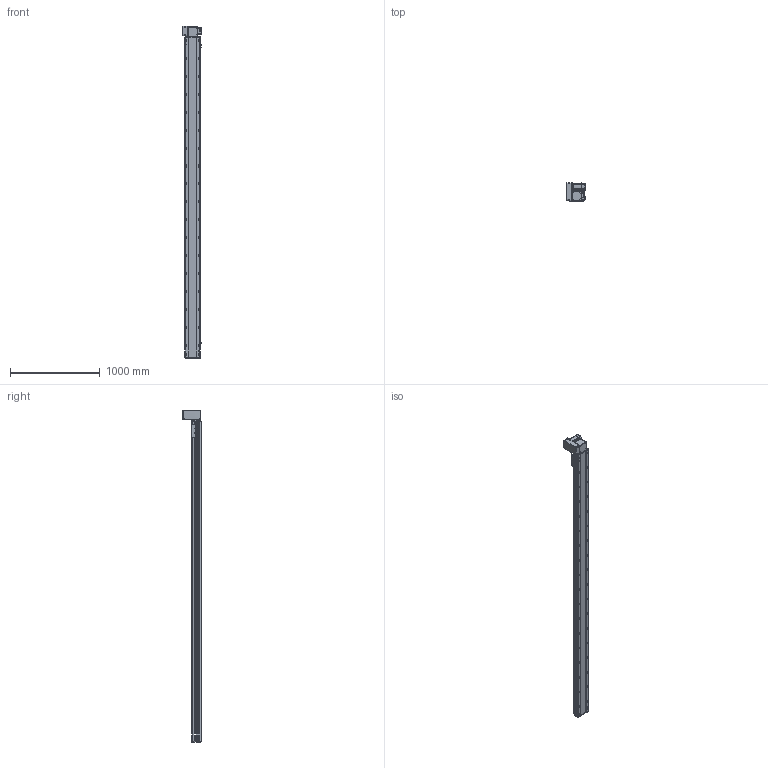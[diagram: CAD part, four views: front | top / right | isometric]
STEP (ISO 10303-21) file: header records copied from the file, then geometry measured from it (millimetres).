
FILE_DESCRIPTION (( 'STEP AP214' ), '1' );
FILE_NAME ('RTB17S-XX-3300-LW-M75-C4.STEP', '2025-12-12T01:21:51', ( '' ), ( '' ), 'SwSTEP 2.0', 'SolidWorks 2018', '' );
FILE_SCHEMA (( 'AUTOMOTIVE_DESIGN' ));
Length unit declared in the file: millimetre
Products named in the file (15): RTB17S-XX-3300-LW-M75-C4; RTB17-R-011菁釱^RTB17S-XX-XX-LW-M75-C4; EE672^RTB17S-XX-XX-LW-M75-C4; RTB22S-GY-005P^RTB17S-LW-々湍釱蚾饜-750W_RTB17S-XX-XX-LW-M75-C4; RTB22S-GY-008-M75--萇儂啣^RTB17S-LW-々湍釱蚾饜-750W_RTB17S-XX-XX-LW-M75-C4; RTB22S-GY-018P^RTB17S-LW-々湍釱蚾饜-750W_RTB17S-XX-XX-LW-M75-C4; RTB17S-賑釱^RTB17S-XX-XX-LW-M75-C4; 750W萇儂^RTB17S-XX-XX-LW-M75-C4; RTB17S-LW-々湍釱蚾饜-750W^RTB17S-XX-XX-LW-M75-C4; RTB17S-L-004-賑釱^RTB17S-賑釱_RTB17S-XX-XX-LW-M75-C4; RTB17S-L-007奻裔^RTB17S-XX-XX-LW-M75-C4; RTB22S-GY-017P^RTB17S-LW-々湍釱蚾饜-750W_RTB17S-XX-XX-LW-M75-C4; RTB17S-L-001-耜醱啣^RTB17S-XX-XX-LW-M75-C4; RTH13-BL-012覜茼え俋离^RTB17S-賑釱_RTB17S-XX-XX-LW-M75-C4; RTB17S-L-014-T20-P75--々湍釱^RTB17S-LW-々湍釱蚾饜-750W_RTB17S-XX-XX-LW-M75-C4
Assembly tree (17 placements, depth 3):
  RTB17S-XX-3300-LW-M75-C4
    RTB17-R-011菁釱^RTB17S-XX-XX-LW-M75-C4
    EE672^RTB17S-XX-XX-LW-M75-C4  x3
    RTB17S-L-001-耜醱啣^RTB17S-XX-XX-LW-M75-C4
    RTB17S-賑釱^RTB17S-XX-XX-LW-M75-C4
      RTB17S-L-004-賑釱^RTB17S-賑釱_RTB17S-XX-XX-LW-M75-C4
      RTH13-BL-012覜茼え俋离^RTB17S-賑釱_RTB17S-XX-XX-LW-M75-C4
    RTB17S-L-007奻裔^RTB17S-XX-XX-LW-M75-C4
    750W萇儂^RTB17S-XX-XX-LW-M75-C4
    RTB17S-LW-々湍釱蚾饜-750W^RTB17S-XX-XX-LW-M75-C4
      RTB17S-L-014-T20-P75--々湍釱^RTB17S-LW-々湍釱蚾饜-750W_RTB17S-XX-XX-LW-M75-C4
      RTB22S-GY-005P^RTB17S-LW-々湍釱蚾饜-750W_RTB17S-XX-XX-LW-M75-C4
      RTB22S-GY-017P^RTB17S-LW-々湍釱蚾饜-750W_RTB17S-XX-XX-LW-M75-C4  x2
      RTB22S-GY-008-M75--萇儂啣^RTB17S-LW-々湍釱蚾饜-750W_RTB17S-XX-XX-LW-M75-C4
      RTB22S-GY-018P^RTB17S-LW-々湍釱蚾饜-750W_RTB17S-XX-XX-LW-M75-C4
Bounding box: 210.4 x 201.5 x 3707.5 mm (x, y, z)
Volume: 26576183.3 mm3; surface area: 4896975.6 mm2
Topology: 17 solids, 17 shells, 2281 faces, 6430 edges, 4166 vertices
Faces by surface type: plane 994, cylinder 871, bspline 294, cone 110, sphere 8, torus 4
Entity records: 67318 total; most frequent: CARTESIAN_POINT 20094, ORIENTED_EDGE 9704, DIRECTION 8942, EDGE_CURVE 4852, AXIS2_PLACEMENT_3D 3186, VERTEX_POINT 3170, VECTOR 2570, LINE 2570
